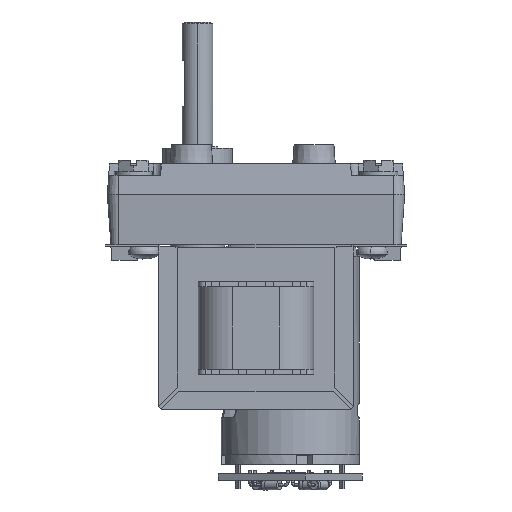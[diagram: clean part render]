
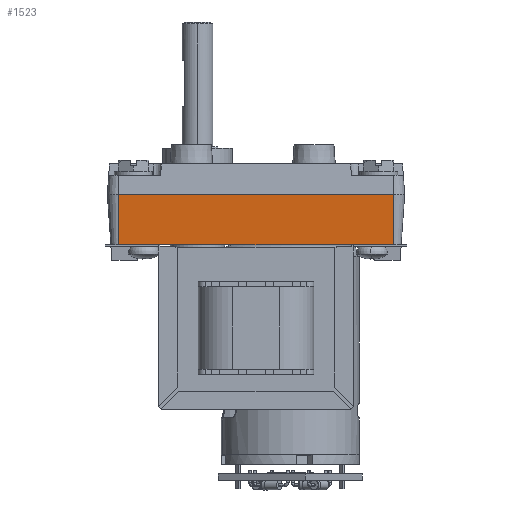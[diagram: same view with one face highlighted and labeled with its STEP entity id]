
A CAD part, left-side view. The second image highlights one B-rep face of the part: STEP entity #1523.
In plain terms, the highlighted planar face has unit normal (0.998, 0, 0.07).
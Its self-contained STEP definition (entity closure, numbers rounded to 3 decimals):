
#317 = EDGE_CURVE ( 'NONE', #676, #3863, #14472, .T. ) ;
#676 = VERTEX_POINT ( 'NONE', #3218 ) ;
#1523 = ADVANCED_FACE ( 'NONE', ( #28217 ), #18144, .F. ) ;
#1586 = CARTESIAN_POINT ( 'NONE',  ( 0., 3., 0. ) ) ;
#1622 = VERTEX_POINT ( 'NONE', #19908 ) ;
#3218 = CARTESIAN_POINT ( 'NONE',  ( 0.909, 74., -13. ) ) ;
#3232 = DIRECTION ( 'NONE',  ( -0.998, 0., -0.07 ) ) ;
#3863 = VERTEX_POINT ( 'NONE', #9979 ) ;
#4135 = ORIENTED_EDGE ( 'NONE', *, *, #17535, .T. ) ;
#4912 = CARTESIAN_POINT ( 'NONE',  ( 0., 74., 0. ) ) ;
#5069 = ORIENTED_EDGE ( 'NONE', *, *, #317, .F. ) ;
#5655 = DIRECTION ( 'NONE',  ( 0.07, 0., -0.998 ) ) ;
#6763 = DIRECTION ( 'NONE',  ( -0.07, 0., 0.998 ) ) ;
#6926 = AXIS2_PLACEMENT_3D ( 'NONE', #25908, #3232, #5655 ) ;
#9979 = CARTESIAN_POINT ( 'NONE',  ( 0.909, 3., -13. ) ) ;
#11713 = VECTOR ( 'NONE', #13657, 1000. ) ;
#12411 = LINE ( 'NONE', #27145, #22341 ) ;
#12616 = CARTESIAN_POINT ( 'NONE',  ( 0., 3., 0. ) ) ;
#13657 = DIRECTION ( 'NONE',  ( 0., -1., 0. ) ) ;
#14472 = LINE ( 'NONE', #28822, #11713 ) ;
#15572 = LINE ( 'NONE', #1586, #28637 ) ;
#17535 = EDGE_CURVE ( 'NONE', #676, #23280, #12411, .T. ) ;
#18144 = PLANE ( 'NONE',  #6926 ) ;
#19908 = CARTESIAN_POINT ( 'NONE',  ( 0., 3., 0. ) ) ;
#22341 = VECTOR ( 'NONE', #24724, 1000. ) ;
#22627 = LINE ( 'NONE', #12616, #26969 ) ;
#22703 = DIRECTION ( 'NONE',  ( 0., -1., 0. ) ) ;
#23280 = VERTEX_POINT ( 'NONE', #4912 ) ;
#24724 = DIRECTION ( 'NONE',  ( -0.07, 0., 0.998 ) ) ;
#25015 = ORIENTED_EDGE ( 'NONE', *, *, #27476, .F. ) ;
#25908 = CARTESIAN_POINT ( 'NONE',  ( 0., 3., 0. ) ) ;
#26969 = VECTOR ( 'NONE', #22703, 1000. ) ;
#27145 = CARTESIAN_POINT ( 'NONE',  ( 0., 74., 0. ) ) ;
#27476 = EDGE_CURVE ( 'NONE', #3863, #1622, #15572, .T. ) ;
#28210 = ORIENTED_EDGE ( 'NONE', *, *, #29125, .T. ) ;
#28217 = FACE_OUTER_BOUND ( 'NONE', #31396, .T. ) ;
#28637 = VECTOR ( 'NONE', #6763, 1000. ) ;
#28822 = CARTESIAN_POINT ( 'NONE',  ( 0.909, 74., -13. ) ) ;
#29125 = EDGE_CURVE ( 'NONE', #23280, #1622, #22627, .T. ) ;
#31396 = EDGE_LOOP ( 'NONE', ( #28210, #25015, #5069, #4135 ) ) ;
